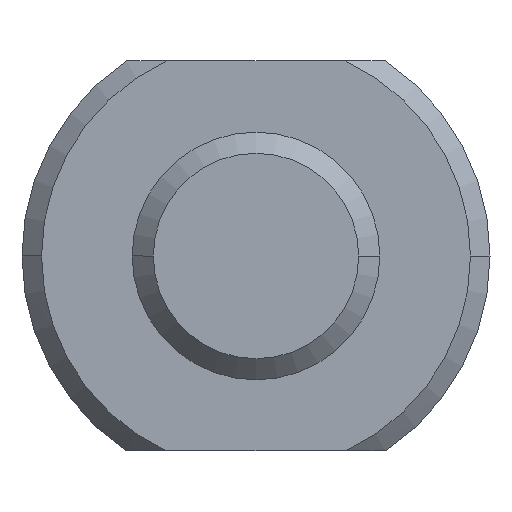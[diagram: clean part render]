
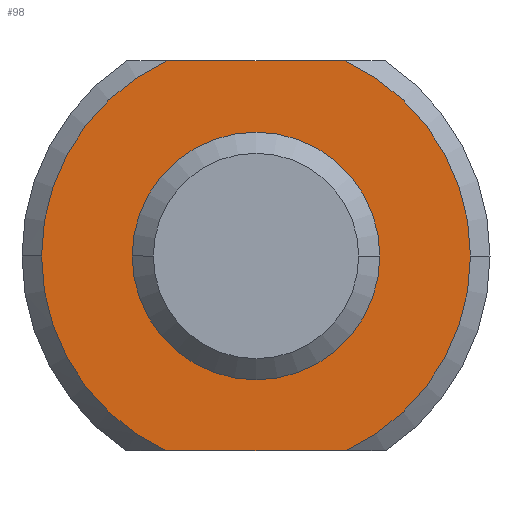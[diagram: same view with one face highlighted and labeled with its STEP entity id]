
A CAD part, front view. The second image highlights one B-rep face of the part: STEP entity #98.
In plain terms, the highlighted planar face has unit normal (0, -1, 0).
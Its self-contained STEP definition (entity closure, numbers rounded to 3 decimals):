
#98 = ADVANCED_FACE( '', ( #150, #151 ), #152, .T. );
#150 = FACE_OUTER_BOUND( '', #206, .T. );
#151 = FACE_BOUND( '', #207, .T. );
#152 = PLANE( '', #208 );
#206 = EDGE_LOOP( '', ( #384, #385, #386, #387, #388, #389 ) );
#207 = EDGE_LOOP( '', ( #390, #391 ) );
#208 = AXIS2_PLACEMENT_3D( '', #392, #393, #394 );
#384 = ORIENTED_EDGE( '', *, *, #456, .T. );
#385 = ORIENTED_EDGE( '', *, *, #473, .F. );
#386 = ORIENTED_EDGE( '', *, *, #425, .F. );
#387 = ORIENTED_EDGE( '', *, *, #463, .T. );
#388 = ORIENTED_EDGE( '', *, *, #434, .F. );
#389 = ORIENTED_EDGE( '', *, *, #469, .F. );
#390 = ORIENTED_EDGE( '', *, *, #429, .T. );
#391 = ORIENTED_EDGE( '', *, *, #472, .T. );
#392 = CARTESIAN_POINT( '', ( 4.338, 0., 0. ) );
#393 = DIRECTION( '', ( 0., -1., 0. ) );
#394 = DIRECTION( '', ( -1., 0., 0. ) );
#425 = EDGE_CURVE( '', #491, #489, #493, .T. );
#429 = EDGE_CURVE( '', #495, #499, #501, .T. );
#434 = EDGE_CURVE( '', #507, #510, #511, .T. );
#456 = EDGE_CURVE( '', #547, #544, #548, .T. );
#463 = EDGE_CURVE( '', #491, #510, #560, .T. );
#469 = EDGE_CURVE( '', #547, #507, #566, .T. );
#472 = EDGE_CURVE( '', #499, #495, #569, .T. );
#473 = EDGE_CURVE( '', #489, #544, #570, .T. );
#489 = VERTEX_POINT( '', #598 );
#491 = VERTEX_POINT( '', #601 );
#493 = CIRCLE( '', #612, 5.5 );
#495 = VERTEX_POINT( '', #614 );
#499 = VERTEX_POINT( '', #619 );
#501 = CIRCLE( '', #622, 3.175 );
#507 = VERTEX_POINT( '', #630 );
#510 = VERTEX_POINT( '', #634 );
#511 = CIRCLE( '', #635, 5.5 );
#544 = VERTEX_POINT( '', #695 );
#547 = VERTEX_POINT( '', #707 );
#548 = LINE( '', #708, #709 );
#560 = LINE( '', #751, #752 );
#566 = CIRCLE( '', #759, 5.5 );
#569 = CIRCLE( '', #762, 3.175 );
#570 = CIRCLE( '', #763, 5.5 );
#598 = CARTESIAN_POINT( '', ( -5.5, 0., 0. ) );
#601 = CARTESIAN_POINT( '', ( -2.291, 0., -5. ) );
#612 = AXIS2_PLACEMENT_3D( '', #779, #780, #781 );
#614 = CARTESIAN_POINT( '', ( 3.175, 0., 0. ) );
#619 = CARTESIAN_POINT( '', ( -3.175, 0., 0. ) );
#622 = AXIS2_PLACEMENT_3D( '', #787, #788, #789 );
#630 = CARTESIAN_POINT( '', ( 5.5, 0., 0. ) );
#634 = CARTESIAN_POINT( '', ( 2.291, 0., -5. ) );
#635 = AXIS2_PLACEMENT_3D( '', #796, #797, #798 );
#695 = CARTESIAN_POINT( '', ( -2.291, 0., 5. ) );
#707 = CARTESIAN_POINT( '', ( 2.291, 0., 5. ) );
#708 = CARTESIAN_POINT( '', ( 7.169, 0., 5. ) );
#709 = VECTOR( '', #835, 1. );
#751 = CARTESIAN_POINT( '', ( 7.169, 0., -5. ) );
#752 = VECTOR( '', #839, 1. );
#759 = AXIS2_PLACEMENT_3D( '', #853, #854, #855 );
#762 = AXIS2_PLACEMENT_3D( '', #862, #863, #864 );
#763 = AXIS2_PLACEMENT_3D( '', #865, #866, #867 );
#779 = CARTESIAN_POINT( '', ( 0., 0., 0. ) );
#780 = DIRECTION( '', ( 0., 1., 0. ) );
#781 = DIRECTION( '', ( 1., 0., 0. ) );
#787 = CARTESIAN_POINT( '', ( 0., 0., 0. ) );
#788 = DIRECTION( '', ( 0., 1., 0. ) );
#789 = DIRECTION( '', ( 1., 0., 0. ) );
#796 = CARTESIAN_POINT( '', ( 0., 0., 0. ) );
#797 = DIRECTION( '', ( 0., 1., 0. ) );
#798 = DIRECTION( '', ( 1., 0., 0. ) );
#835 = DIRECTION( '', ( -1., 0., 0. ) );
#839 = DIRECTION( '', ( 1., 0., 0. ) );
#853 = CARTESIAN_POINT( '', ( 0., 0., 0. ) );
#854 = DIRECTION( '', ( 0., 1., 0. ) );
#855 = DIRECTION( '', ( 1., 0., 0. ) );
#862 = CARTESIAN_POINT( '', ( 0., 0., 0. ) );
#863 = DIRECTION( '', ( 0., 1., 0. ) );
#864 = DIRECTION( '', ( 1., 0., 0. ) );
#865 = CARTESIAN_POINT( '', ( 0., 0., 0. ) );
#866 = DIRECTION( '', ( 0., 1., 0. ) );
#867 = DIRECTION( '', ( 1., 0., 0. ) );
